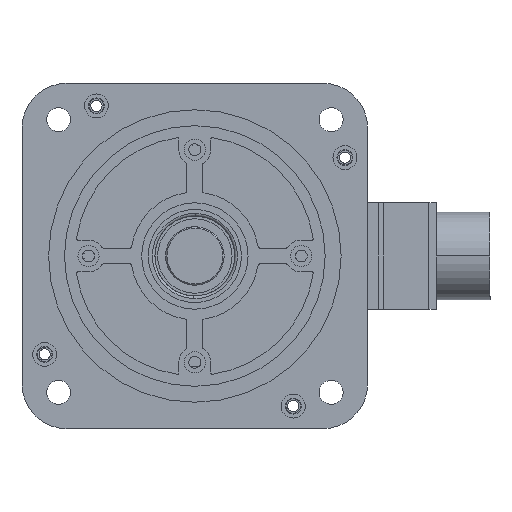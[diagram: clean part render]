
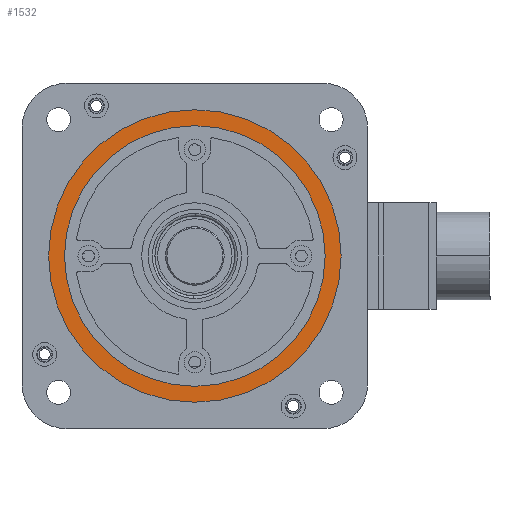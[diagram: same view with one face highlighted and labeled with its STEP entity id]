
A CAD part, left-side view. The second image highlights one B-rep face of the part: STEP entity #1532.
In plain terms, the highlighted planar face has unit normal (-1, 0, 0).
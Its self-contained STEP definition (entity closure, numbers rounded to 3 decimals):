
#913 = EDGE_CURVE ( 'NONE', #20194, #15359, #16651, .T. ) ;
#1201 = FACE_OUTER_BOUND ( 'NONE', #9963, .T. ) ;
#1532 = ADVANCED_FACE ( 'NONE', ( #10452, #1201 ), #8739, .F. ) ;
#1800 = CARTESIAN_POINT ( 'NONE',  ( 52., 49., 0. ) ) ;
#2047 = ORIENTED_EDGE ( 'NONE', *, *, #913, .F. ) ;
#4226 = DIRECTION ( 'NONE',  ( 1., 0., 0. ) ) ;
#4598 = CARTESIAN_POINT ( 'NONE',  ( 52., -55., 0. ) ) ;
#4746 = CIRCLE ( 'NONE', #14743, 49. ) ;
#4774 = DIRECTION ( 'NONE',  ( -1., 0., 0. ) ) ;
#6469 = ORIENTED_EDGE ( 'NONE', *, *, #18950, .F. ) ;
#6799 = CARTESIAN_POINT ( 'NONE',  ( 52., -49., 0. ) ) ;
#6922 = DIRECTION ( 'NONE',  ( -1., 0., 0. ) ) ;
#7210 = AXIS2_PLACEMENT_3D ( 'NONE', #13578, #4226, #17114 ) ;
#7222 = VERTEX_POINT ( 'NONE', #7561 ) ;
#7561 = CARTESIAN_POINT ( 'NONE',  ( 52., 55., 0. ) ) ;
#7842 = EDGE_CURVE ( 'NONE', #7222, #10770, #8994, .T. ) ;
#8716 = DIRECTION ( 'NONE',  ( -1., 0., 0. ) ) ;
#8739 = PLANE ( 'NONE',  #7210 ) ;
#8831 = AXIS2_PLACEMENT_3D ( 'NONE', #9489, #4774, #18985 ) ;
#8856 = CARTESIAN_POINT ( 'NONE',  ( 52., 0., 0. ) ) ;
#8994 = CIRCLE ( 'NONE', #8831, 55. ) ;
#9489 = CARTESIAN_POINT ( 'NONE',  ( 52., 0., 0. ) ) ;
#9963 = EDGE_LOOP ( 'NONE', ( #18093, #18044 ) ) ;
#10452 = FACE_BOUND ( 'NONE', #15709, .T. ) ;
#10770 = VERTEX_POINT ( 'NONE', #4598 ) ;
#11661 = DIRECTION ( 'NONE',  ( 0., 1., 0. ) ) ;
#13578 = CARTESIAN_POINT ( 'NONE',  ( 52., 0., 0. ) ) ;
#14610 = DIRECTION ( 'NONE',  ( 0., 1., 0. ) ) ;
#14743 = AXIS2_PLACEMENT_3D ( 'NONE', #19460, #6922, #11661 ) ;
#15359 = VERTEX_POINT ( 'NONE', #1800 ) ;
#15709 = EDGE_LOOP ( 'NONE', ( #6469, #2047 ) ) ;
#16651 = CIRCLE ( 'NONE', #16844, 49. ) ;
#16844 = AXIS2_PLACEMENT_3D ( 'NONE', #17225, #17366, #14610 ) ;
#17114 = DIRECTION ( 'NONE',  ( 0., -1., 0. ) ) ;
#17225 = CARTESIAN_POINT ( 'NONE',  ( 52., 0., 0. ) ) ;
#17327 = EDGE_CURVE ( 'NONE', #10770, #7222, #20271, .T. ) ;
#17366 = DIRECTION ( 'NONE',  ( -1., 0., 0. ) ) ;
#18044 = ORIENTED_EDGE ( 'NONE', *, *, #17327, .T. ) ;
#18093 = ORIENTED_EDGE ( 'NONE', *, *, #7842, .T. ) ;
#18300 = DIRECTION ( 'NONE',  ( 0., 1., 0. ) ) ;
#18950 = EDGE_CURVE ( 'NONE', #15359, #20194, #4746, .T. ) ;
#18985 = DIRECTION ( 'NONE',  ( 0., 1., 0. ) ) ;
#19460 = CARTESIAN_POINT ( 'NONE',  ( 52., 0., 0. ) ) ;
#20194 = VERTEX_POINT ( 'NONE', #6799 ) ;
#20271 = CIRCLE ( 'NONE', #20562, 55. ) ;
#20562 = AXIS2_PLACEMENT_3D ( 'NONE', #8856, #8716, #18300 ) ;
